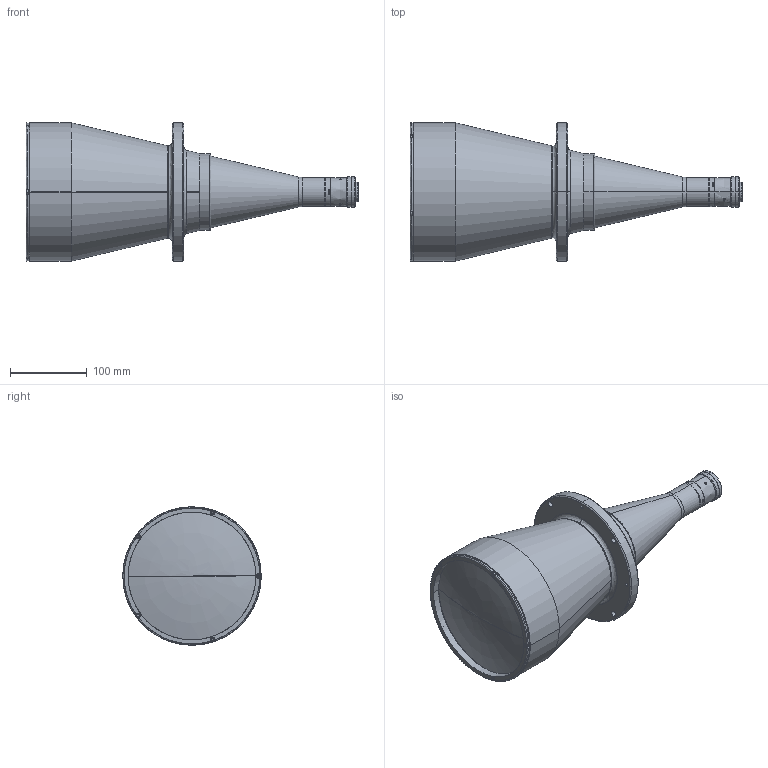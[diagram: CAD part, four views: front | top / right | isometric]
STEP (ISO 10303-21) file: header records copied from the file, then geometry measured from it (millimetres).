
FILE_DESCRIPTION(('LS-TCL-0231'),'2;1');
FILE_NAME('LS-TCL-0231.stp','2026-10-15T21:54:53',('LumaSpec Vision'),('LumaSpec Vision'),'LumaSpec Vision','LumaSpec Vision','');
FILE_SCHEMA(('AUTOMOTIVE_DESIGN { 1 0 10303 214 1 1 1 1 }'));
Length unit declared in the file: millimetre
Products named in the file (227): LumaSpec Vision
Assembly tree (226 placements, depth 2):
  LumaSpec Vision
    LumaSpec Vision
    LumaSpec Vision
    LumaSpec Vision
    LumaSpec Vision
    LumaSpec Vision
    LumaSpec Vision
    LumaSpec Vision
    LumaSpec Vision
    LumaSpec Vision
    LumaSpec Vision
    LumaSpec Vision
    LumaSpec Vision
    LumaSpec Vision
    LumaSpec Vision
    LumaSpec Vision
    LumaSpec Vision
    LumaSpec Vision
    LumaSpec Vision
    LumaSpec Vision
    LumaSpec Vision
    LumaSpec Vision
    LumaSpec Vision
    LumaSpec Vision
    LumaSpec Vision
    LumaSpec Vision
    LumaSpec Vision
    LumaSpec Vision
    LumaSpec Vision
    LumaSpec Vision
    LumaSpec Vision
    LumaSpec Vision
    LumaSpec Vision
    LumaSpec Vision
    LumaSpec Vision
    LumaSpec Vision
    LumaSpec Vision
    LumaSpec Vision
    LumaSpec Vision
    LumaSpec Vision
    LumaSpec Vision
    LumaSpec Vision
    LumaSpec Vision
    LumaSpec Vision
    LumaSpec Vision
    LumaSpec Vision
    LumaSpec Vision
    LumaSpec Vision
    LumaSpec Vision
    LumaSpec Vision
    LumaSpec Vision
    LumaSpec Vision
    LumaSpec Vision
    LumaSpec Vision
    LumaSpec Vision
    LumaSpec Vision
    LumaSpec Vision
    LumaSpec Vision
    LumaSpec Vision
    LumaSpec Vision
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Bounding box: 431.81 x 180 x 180 mm (x, y, z)
Surface area: 226367 mm2 (no closed solid volume)
Topology: 0 solids, 226 shells, 226 faces, 3809 edges, 3806 vertices
Faces by surface type: bspline 114, revolution 112
Entity records: 63839 total; most frequent: CARTESIAN_POINT 25488, B_SPLINE_CURVE_WITH_KNOTS 6709, ORIENTED_EDGE 3806, EDGE_CURVE 3806, VERTEX_POINT 3806, SURFACE_CURVE 3806, PCURVE 3806, DEFINITIONAL_REPRESENTATION 3806
